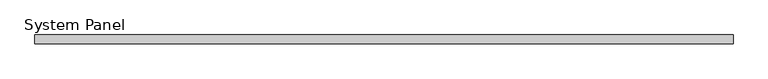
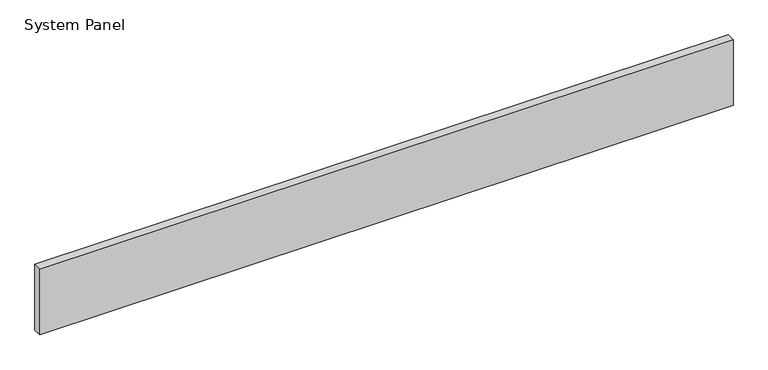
"""IFC4 building model written with IfcOpenShell, lengths in millimetres: plate geometry, System Panel : Equitilt_150mm_Plain_Surfmist."""

from ifc_helpers import new_model, si_unit, origin, origin_with_axes, place, context, project, spatial, polyline, outline, extrude, source, transform, mapped, element, save


def system_panel_b356437f(model_context):
    return source(origin(), model_context, "Body", "SweptSolid", [
        extrude(outline(polyline([(6000.0, 0.0), (-6000.0, 0.0), (-6000.0, 150.0), (6000.0, 150.0), (6000.0, 0.0)])), origin_with_axes(), (0.0, 0.0, 1.0), 1200.0),
    ])


if __name__ == "__main__":
    model = new_model("IFC4")
    model_context = context("Model", 3, world=origin())
    ifc_project = project(units=[si_unit("LENGTHUNIT", "METRE", prefix="MILLI")], contexts=[model_context])
    site = spatial("IfcSite", under=ifc_project)
    building = spatial("IfcBuilding", under=site)
    placement = place(None, origin())
    system_panel_shape = system_panel_b356437f(model_context)
    element("IfcPlate", 1, ObjectType="System Panel : Equitilt_150mm_Plain_Surfmist", at=placement, inside=building, context=model_context, shape_type="MappedRepresentation", body=[
        mapped(system_panel_shape, transform((0.0, 0.0, 0.0), x_axis=(1.0, 0.0, 0.0), y_axis=(0.0, 1.0, 0.0), z_axis=(0.0, 0.0, 1.0))),
    ])
    save(model, "model.ifc")
